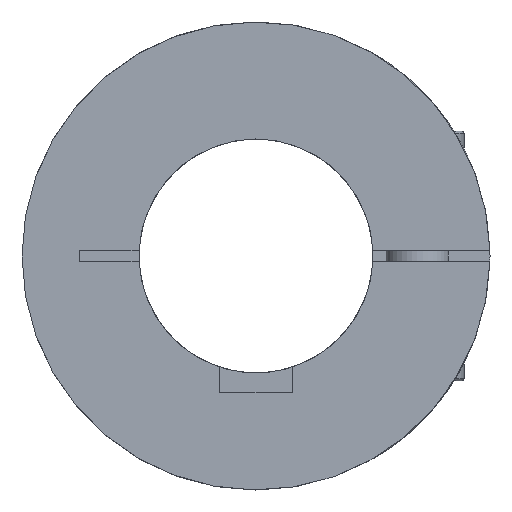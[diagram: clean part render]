
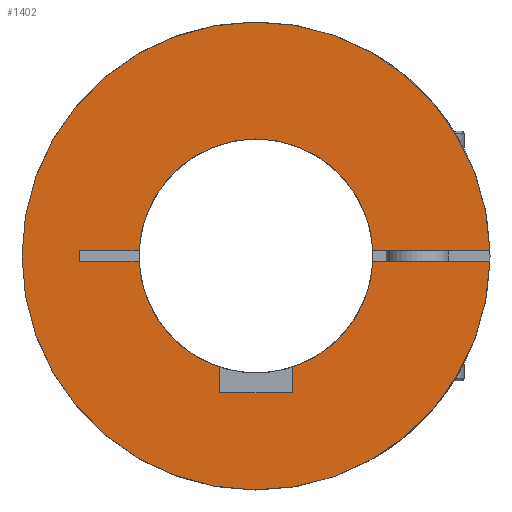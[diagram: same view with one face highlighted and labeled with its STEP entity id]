
A CAD part, left-side view. The second image highlights one B-rep face of the part: STEP entity #1402.
In plain terms, the highlighted planar face has unit normal (-1, 0, 0).
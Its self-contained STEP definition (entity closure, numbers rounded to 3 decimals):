
#51=PLANE('',#1587);
#130=LINE('',#2444,#237);
#133=LINE('',#2450,#240);
#134=LINE('',#2452,#241);
#146=LINE('',#2474,#253);
#150=LINE('',#2480,#257);
#161=LINE('',#2501,#268);
#162=LINE('',#2504,#269);
#187=LINE('',#2562,#294);
#237=VECTOR('',#1862,1.);
#240=VECTOR('',#1867,1.);
#241=VECTOR('',#1870,1.);
#253=VECTOR('',#1890,23.046);
#257=VECTOR('',#1898,34.034);
#268=VECTOR('',#1919,34.034);
#269=VECTOR('',#1922,23.046);
#294=VECTOR('',#1989,2.);
#390=FACE_OUTER_BOUND('',#485,.T.);
#485=EDGE_LOOP('',(#1250,#1251,#1252,#1253,#1254,#1255,#1256,#1257,#1258,
#1259,#1260,#1261));
#567=CIRCLE('',#1510,45.);
#592=CIRCLE('',#1545,22.5);
#594=CIRCLE('',#1547,22.5);
#595=CIRCLE('',#1549,22.5);
#645=VERTEX_POINT('',#2244);
#646=VERTEX_POINT('',#2246);
#685=VERTEX_POINT('',#2417);
#686=VERTEX_POINT('',#2419);
#689=VERTEX_POINT('',#2425);
#690=VERTEX_POINT('',#2427);
#691=VERTEX_POINT('',#2431);
#692=VERTEX_POINT('',#2432);
#696=VERTEX_POINT('',#2442);
#698=VERTEX_POINT('',#2448);
#704=VERTEX_POINT('',#2472);
#710=VERTEX_POINT('',#2503);
#798=EDGE_CURVE('',#646,#645,#567,.T.);
#845=EDGE_CURVE('',#686,#685,#592,.T.);
#849=EDGE_CURVE('',#690,#689,#594,.T.);
#851=EDGE_CURVE('',#691,#692,#595,.T.);
#857=EDGE_CURVE('',#689,#696,#130,.T.);
#860=EDGE_CURVE('',#696,#698,#133,.T.);
#861=EDGE_CURVE('',#698,#686,#134,.T.);
#873=EDGE_CURVE('',#704,#685,#146,.T.);
#877=EDGE_CURVE('',#692,#646,#150,.T.);
#888=EDGE_CURVE('',#645,#690,#161,.T.);
#889=EDGE_CURVE('',#710,#691,#162,.T.);
#914=EDGE_CURVE('',#710,#704,#187,.T.);
#1250=ORIENTED_EDGE('',*,*,#845,.T.);
#1251=ORIENTED_EDGE('',*,*,#873,.F.);
#1252=ORIENTED_EDGE('',*,*,#914,.F.);
#1253=ORIENTED_EDGE('',*,*,#889,.T.);
#1254=ORIENTED_EDGE('',*,*,#851,.T.);
#1255=ORIENTED_EDGE('',*,*,#877,.T.);
#1256=ORIENTED_EDGE('',*,*,#798,.T.);
#1257=ORIENTED_EDGE('',*,*,#888,.T.);
#1258=ORIENTED_EDGE('',*,*,#849,.T.);
#1259=ORIENTED_EDGE('',*,*,#857,.T.);
#1260=ORIENTED_EDGE('',*,*,#860,.T.);
#1261=ORIENTED_EDGE('',*,*,#861,.T.);
#1402=ADVANCED_FACE('',(#390),#51,.T.);
#1510=AXIS2_PLACEMENT_3D('',#2247,#1753,#1754);
#1545=AXIS2_PLACEMENT_3D('',#2420,#1841,#1842);
#1547=AXIS2_PLACEMENT_3D('',#2428,#1847,#1848);
#1549=AXIS2_PLACEMENT_3D('',#2433,#1852,#1853);
#1587=AXIS2_PLACEMENT_3D('',#2563,#1990,#1991);
#1753=DIRECTION('center_axis',(-1.,0.,0.));
#1754=DIRECTION('ref_axis',(0.,1.,0.));
#1841=DIRECTION('center_axis',(1.,0.,0.));
#1842=DIRECTION('ref_axis',(0.,0.,-1.));
#1847=DIRECTION('center_axis',(1.,0.,0.));
#1848=DIRECTION('ref_axis',(0.,0.,-1.));
#1852=DIRECTION('center_axis',(1.,0.,0.));
#1853=DIRECTION('ref_axis',(0.,0.,-1.));
#1862=DIRECTION('',(0.,0.,-1.));
#1867=DIRECTION('',(0.,1.,0.));
#1870=DIRECTION('',(0.,0.,1.));
#1890=DIRECTION('',(0.,-1.,0.));
#1898=DIRECTION('',(0.,-1.,0.));
#1919=DIRECTION('',(0.,1.,0.));
#1922=DIRECTION('',(0.,-1.,0.));
#1989=DIRECTION('',(0.,0.,-1.));
#1990=DIRECTION('center_axis',(-1.,0.,0.));
#1991=DIRECTION('ref_axis',(0.,-1.,0.));
#2244=CARTESIAN_POINT('',(0.,-44.989,-1.));
#2246=CARTESIAN_POINT('',(0.,-44.989,1.));
#2247=CARTESIAN_POINT('Origin',(0.,0.,0.));
#2417=CARTESIAN_POINT('',(0.,22.478,-1.));
#2419=CARTESIAN_POINT('',(0.,7.,-21.383));
#2420=CARTESIAN_POINT('Origin',(0.,0.,0.));
#2425=CARTESIAN_POINT('',(0.,-7.,-21.383));
#2427=CARTESIAN_POINT('',(0.,-22.478,-1.));
#2428=CARTESIAN_POINT('Origin',(0.,0.,0.));
#2431=CARTESIAN_POINT('',(0.,22.478,1.));
#2432=CARTESIAN_POINT('',(0.,-22.478,1.));
#2433=CARTESIAN_POINT('Origin',(0.,0.,0.));
#2442=CARTESIAN_POINT('',(0.,-7.,-26.3));
#2444=CARTESIAN_POINT('',(0.,-7.,-12.075));
#2448=CARTESIAN_POINT('',(0.,7.,-26.3));
#2450=CARTESIAN_POINT('',(0.,0.,-26.3));
#2452=CARTESIAN_POINT('',(0.,7.,-12.075));
#2472=CARTESIAN_POINT('',(0.,34.,-1.));
#2474=CARTESIAN_POINT('',(0.,34.,-1.));
#2480=CARTESIAN_POINT('',(0.,-10.954,1.));
#2501=CARTESIAN_POINT('',(0.,-44.989,-1.));
#2503=CARTESIAN_POINT('',(0.,34.,1.));
#2504=CARTESIAN_POINT('',(0.,34.,1.));
#2562=CARTESIAN_POINT('',(0.,34.,1.));
#2563=CARTESIAN_POINT('Origin',(0.,0.,-11.));
